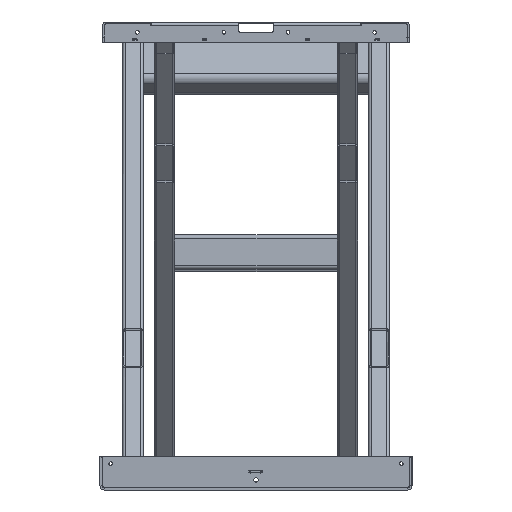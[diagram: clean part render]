
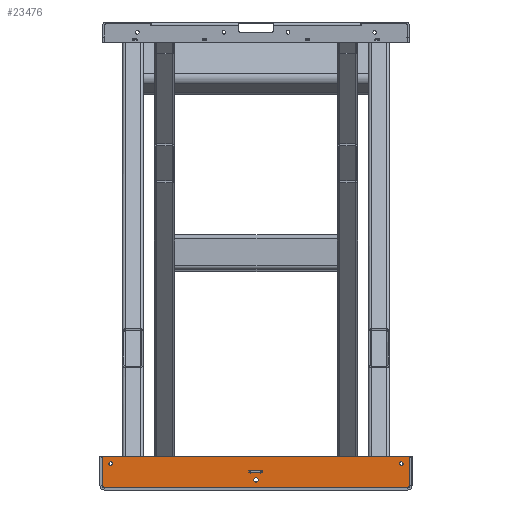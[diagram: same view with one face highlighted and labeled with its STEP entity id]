
A CAD part, left-side view. The second image highlights one B-rep face of the part: STEP entity #23476.
In plain terms, the highlighted planar face has unit normal (-1, 0, 0) as drawn and (0, 0, -1) by its records, which use the part's own axes.
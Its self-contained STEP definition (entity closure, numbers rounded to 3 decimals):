
#858=FACE_BOUND('',#4044,.T.);
#859=FACE_BOUND('',#4045,.T.);
#860=FACE_BOUND('',#4046,.T.);
#861=FACE_BOUND('',#4047,.T.);
#1443=PLANE('',#25908);
#2570=FACE_OUTER_BOUND('',#4043,.T.);
#4043=EDGE_LOOP('',(#21197,#21198,#21199,#21200,#21201,#21202,#21203,#21204));
#4044=EDGE_LOOP('',(#21205,#21206,#21207,#21208,#21209,#21210,#21211,#21212,
#21213,#21214,#21215,#21216,#21217,#21218,#21219,#21220));
#4045=EDGE_LOOP('',(#21221));
#4046=EDGE_LOOP('',(#21222));
#4047=EDGE_LOOP('',(#21223));
#5364=CIRCLE('',#25866,1.);
#5366=CIRCLE('',#25869,1.);
#5368=CIRCLE('',#25872,1.);
#5370=CIRCLE('',#25876,1.);
#5372=CIRCLE('',#25879,1.);
#5374=CIRCLE('',#25882,1.);
#5376=CIRCLE('',#25886,1.);
#5378=CIRCLE('',#25889,1.);
#5380=CIRCLE('',#25892,1.);
#5382=CIRCLE('',#25896,1.);
#5384=CIRCLE('',#25899,1.);
#5386=CIRCLE('',#25902,1.);
#5389=CIRCLE('',#25907,1.);
#5390=CIRCLE('',#25909,1.);
#5391=CIRCLE('',#25910,5.);
#5392=CIRCLE('',#25911,5.);
#5393=CIRCLE('',#25912,6.25);
#7299=LINE('',#41396,#9271);
#7305=LINE('',#41420,#9277);
#7311=LINE('',#41444,#9283);
#7317=LINE('',#41467,#9289);
#7321=LINE('',#41480,#9293);
#7322=LINE('',#41484,#9294);
#7323=LINE('',#41486,#9295);
#7324=LINE('',#41488,#9296);
#7325=LINE('',#41490,#9297);
#7326=LINE('',#41491,#9298);
#9271=VECTOR('',#32477,2.636);
#9277=VECTOR('',#32503,26.636);
#9283=VECTOR('',#32529,2.636);
#9289=VECTOR('',#32555,26.636);
#9293=VECTOR('',#32567,885.);
#9294=VECTOR('',#32570,83.);
#9295=VECTOR('',#32571,8.485);
#9296=VECTOR('',#32572,875.);
#9297=VECTOR('',#32573,8.485);
#9298=VECTOR('',#32574,83.);
#11481=VERTEX_POINT('',#41374);
#11482=VERTEX_POINT('',#41375);
#11485=VERTEX_POINT('',#41383);
#11487=VERTEX_POINT('',#41389);
#11489=VERTEX_POINT('',#41395);
#11491=VERTEX_POINT('',#41401);
#11493=VERTEX_POINT('',#41407);
#11495=VERTEX_POINT('',#41413);
#11497=VERTEX_POINT('',#41419);
#11499=VERTEX_POINT('',#41425);
#11501=VERTEX_POINT('',#41431);
#11503=VERTEX_POINT('',#41437);
#11505=VERTEX_POINT('',#41443);
#11507=VERTEX_POINT('',#41449);
#11509=VERTEX_POINT('',#41455);
#11511=VERTEX_POINT('',#41461);
#11515=VERTEX_POINT('',#41473);
#11516=VERTEX_POINT('',#41475);
#11517=VERTEX_POINT('',#41479);
#11518=VERTEX_POINT('',#41481);
#11519=VERTEX_POINT('',#41483);
#11520=VERTEX_POINT('',#41485);
#11521=VERTEX_POINT('',#41487);
#11522=VERTEX_POINT('',#41489);
#11523=VERTEX_POINT('',#41492);
#11524=VERTEX_POINT('',#41494);
#11525=VERTEX_POINT('',#41496);
#14738=EDGE_CURVE('',#11481,#11482,#5364,.T.);
#14742=EDGE_CURVE('',#11482,#11485,#5366,.T.);
#14745=EDGE_CURVE('',#11485,#11487,#5368,.T.);
#14748=EDGE_CURVE('',#11487,#11489,#7299,.T.);
#14751=EDGE_CURVE('',#11489,#11491,#5370,.T.);
#14754=EDGE_CURVE('',#11491,#11493,#5372,.T.);
#14757=EDGE_CURVE('',#11493,#11495,#5374,.T.);
#14760=EDGE_CURVE('',#11495,#11497,#7305,.T.);
#14763=EDGE_CURVE('',#11497,#11499,#5376,.T.);
#14766=EDGE_CURVE('',#11499,#11501,#5378,.T.);
#14769=EDGE_CURVE('',#11501,#11503,#5380,.T.);
#14772=EDGE_CURVE('',#11503,#11505,#7311,.T.);
#14775=EDGE_CURVE('',#11505,#11507,#5382,.T.);
#14778=EDGE_CURVE('',#11507,#11509,#5384,.T.);
#14781=EDGE_CURVE('',#11509,#11511,#5386,.T.);
#14784=EDGE_CURVE('',#11511,#11481,#7317,.T.);
#14788=EDGE_CURVE('',#11515,#11516,#5389,.T.);
#14790=EDGE_CURVE('',#11515,#11517,#7321,.T.);
#14791=EDGE_CURVE('',#11518,#11517,#5390,.T.);
#14792=EDGE_CURVE('',#11518,#11519,#7322,.T.);
#14793=EDGE_CURVE('',#11520,#11519,#7323,.T.);
#14794=EDGE_CURVE('',#11520,#11521,#7324,.T.);
#14795=EDGE_CURVE('',#11522,#11521,#7325,.T.);
#14796=EDGE_CURVE('',#11522,#11516,#7326,.T.);
#14797=EDGE_CURVE('',#11523,#11523,#5391,.T.);
#14798=EDGE_CURVE('',#11524,#11524,#5392,.T.);
#14799=EDGE_CURVE('',#11525,#11525,#5393,.T.);
#21197=ORIENTED_EDGE('',*,*,#14788,.F.);
#21198=ORIENTED_EDGE('',*,*,#14790,.T.);
#21199=ORIENTED_EDGE('',*,*,#14791,.F.);
#21200=ORIENTED_EDGE('',*,*,#14792,.T.);
#21201=ORIENTED_EDGE('',*,*,#14793,.F.);
#21202=ORIENTED_EDGE('',*,*,#14794,.T.);
#21203=ORIENTED_EDGE('',*,*,#14795,.F.);
#21204=ORIENTED_EDGE('',*,*,#14796,.T.);
#21205=ORIENTED_EDGE('',*,*,#14738,.T.);
#21206=ORIENTED_EDGE('',*,*,#14742,.T.);
#21207=ORIENTED_EDGE('',*,*,#14745,.T.);
#21208=ORIENTED_EDGE('',*,*,#14748,.T.);
#21209=ORIENTED_EDGE('',*,*,#14751,.T.);
#21210=ORIENTED_EDGE('',*,*,#14754,.T.);
#21211=ORIENTED_EDGE('',*,*,#14757,.T.);
#21212=ORIENTED_EDGE('',*,*,#14760,.T.);
#21213=ORIENTED_EDGE('',*,*,#14763,.T.);
#21214=ORIENTED_EDGE('',*,*,#14766,.T.);
#21215=ORIENTED_EDGE('',*,*,#14769,.T.);
#21216=ORIENTED_EDGE('',*,*,#14772,.T.);
#21217=ORIENTED_EDGE('',*,*,#14775,.T.);
#21218=ORIENTED_EDGE('',*,*,#14778,.T.);
#21219=ORIENTED_EDGE('',*,*,#14781,.T.);
#21220=ORIENTED_EDGE('',*,*,#14784,.T.);
#21221=ORIENTED_EDGE('',*,*,#14797,.T.);
#21222=ORIENTED_EDGE('',*,*,#14798,.T.);
#21223=ORIENTED_EDGE('',*,*,#14799,.T.);
#23476=ADVANCED_FACE('',(#2570,#858,#859,#860,#861),#1443,.F.);
#25866=AXIS2_PLACEMENT_3D('',#41376,#32455,#32456);
#25869=AXIS2_PLACEMENT_3D('',#41384,#32463,#32464);
#25872=AXIS2_PLACEMENT_3D('',#41390,#32470,#32471);
#25876=AXIS2_PLACEMENT_3D('',#41402,#32482,#32483);
#25879=AXIS2_PLACEMENT_3D('',#41408,#32489,#32490);
#25882=AXIS2_PLACEMENT_3D('',#41414,#32496,#32497);
#25886=AXIS2_PLACEMENT_3D('',#41426,#32508,#32509);
#25889=AXIS2_PLACEMENT_3D('',#41432,#32515,#32516);
#25892=AXIS2_PLACEMENT_3D('',#41438,#32522,#32523);
#25896=AXIS2_PLACEMENT_3D('',#41450,#32534,#32535);
#25899=AXIS2_PLACEMENT_3D('',#41456,#32541,#32542);
#25902=AXIS2_PLACEMENT_3D('',#41462,#32548,#32549);
#25907=AXIS2_PLACEMENT_3D('',#41476,#32562,#32563);
#25908=AXIS2_PLACEMENT_3D('',#41478,#32565,#32566);
#25909=AXIS2_PLACEMENT_3D('',#41482,#32568,#32569);
#25910=AXIS2_PLACEMENT_3D('',#41493,#32575,#32576);
#25911=AXIS2_PLACEMENT_3D('',#41495,#32577,#32578);
#25912=AXIS2_PLACEMENT_3D('',#41497,#32579,#32580);
#32455=DIRECTION('center_axis',(0.,0.,-1.));
#32456=DIRECTION('ref_axis',(-0.866,-0.5,0.));
#32463=DIRECTION('center_axis',(0.,0.,1.));
#32464=DIRECTION('ref_axis',(-0.866,-0.5,0.));
#32470=DIRECTION('center_axis',(0.,0.,-1.));
#32471=DIRECTION('ref_axis',(1.,0.,0.));
#32477=DIRECTION('',(0.,-1.,0.));
#32482=DIRECTION('center_axis',(0.,0.,-1.));
#32483=DIRECTION('ref_axis',(0.5,-0.866,0.));
#32489=DIRECTION('center_axis',(0.,0.,1.));
#32490=DIRECTION('ref_axis',(0.5,-0.866,0.));
#32496=DIRECTION('center_axis',(0.,0.,-1.));
#32497=DIRECTION('ref_axis',(0.,1.,0.));
#32503=DIRECTION('',(1.,0.,0.));
#32508=DIRECTION('center_axis',(0.,0.,-1.));
#32509=DIRECTION('ref_axis',(0.866,0.5,0.));
#32515=DIRECTION('center_axis',(0.,0.,1.));
#32516=DIRECTION('ref_axis',(0.866,0.5,0.));
#32522=DIRECTION('center_axis',(0.,0.,-1.));
#32523=DIRECTION('ref_axis',(-1.,0.,0.));
#32529=DIRECTION('',(0.,1.,0.));
#32534=DIRECTION('center_axis',(0.,0.,-1.));
#32535=DIRECTION('ref_axis',(-0.5,0.866,0.));
#32541=DIRECTION('center_axis',(0.,0.,1.));
#32542=DIRECTION('ref_axis',(-0.5,0.866,0.));
#32548=DIRECTION('center_axis',(0.,0.,-1.));
#32549=DIRECTION('ref_axis',(0.,-1.,0.));
#32555=DIRECTION('',(-1.,0.,0.));
#32562=DIRECTION('center_axis',(0.,0.,1.));
#32563=DIRECTION('ref_axis',(0.707,-0.707,0.));
#32565=DIRECTION('center_axis',(0.,0.,1.));
#32566=DIRECTION('ref_axis',(1.,0.,0.));
#32567=DIRECTION('',(-1.,0.,0.));
#32568=DIRECTION('center_axis',(0.,0.,1.));
#32569=DIRECTION('ref_axis',(-0.707,-0.707,0.));
#32570=DIRECTION('',(0.,1.,0.));
#32571=DIRECTION('',(-0.707,-0.707,0.));
#32572=DIRECTION('',(1.,0.,0.));
#32573=DIRECTION('',(-0.707,0.707,0.));
#32574=DIRECTION('',(0.,-1.,0.));
#32575=DIRECTION('center_axis',(0.,0.,1.));
#32576=DIRECTION('ref_axis',(1.,0.,0.));
#32577=DIRECTION('center_axis',(0.,0.,1.));
#32578=DIRECTION('ref_axis',(1.,0.,0.));
#32579=DIRECTION('center_axis',(0.,0.,1.));
#32580=DIRECTION('ref_axis',(1.,0.,0.));
#41374=CARTESIAN_POINT('',(-14.318,1.1,0.));
#41375=CARTESIAN_POINT('',(-15.184,1.6,0.));
#41376=CARTESIAN_POINT('Origin',(-14.318,2.1,0.));
#41383=CARTESIAN_POINT('',(-16.55,0.234,0.));
#41384=CARTESIAN_POINT('Origin',(-16.05,1.1,0.));
#41389=CARTESIAN_POINT('',(-16.05,-0.632,0.));
#41390=CARTESIAN_POINT('Origin',(-17.05,-0.632,0.));
#41395=CARTESIAN_POINT('',(-16.05,-3.268,0.));
#41396=CARTESIAN_POINT('',(-16.05,-0.316,0.));
#41401=CARTESIAN_POINT('',(-16.55,-4.134,0.));
#41402=CARTESIAN_POINT('Origin',(-17.05,-3.268,0.));
#41407=CARTESIAN_POINT('',(-15.184,-5.5,0.));
#41408=CARTESIAN_POINT('Origin',(-16.05,-5.,0.));
#41413=CARTESIAN_POINT('',(-14.318,-5.,0.));
#41414=CARTESIAN_POINT('Origin',(-14.318,-6.,0.));
#41419=CARTESIAN_POINT('',(12.318,-5.,0.));
#41420=CARTESIAN_POINT('',(-7.159,-5.,0.));
#41425=CARTESIAN_POINT('',(13.184,-5.5,0.));
#41426=CARTESIAN_POINT('Origin',(12.318,-6.,0.));
#41431=CARTESIAN_POINT('',(14.55,-4.134,0.));
#41432=CARTESIAN_POINT('Origin',(14.05,-5.,0.));
#41437=CARTESIAN_POINT('',(14.05,-3.268,0.));
#41438=CARTESIAN_POINT('Origin',(15.05,-3.268,0.));
#41443=CARTESIAN_POINT('',(14.05,-0.632,0.));
#41444=CARTESIAN_POINT('',(14.05,-1.634,0.));
#41449=CARTESIAN_POINT('',(14.55,0.234,0.));
#41450=CARTESIAN_POINT('Origin',(15.05,-0.632,0.));
#41455=CARTESIAN_POINT('',(13.184,1.6,0.));
#41456=CARTESIAN_POINT('Origin',(14.05,1.1,0.));
#41461=CARTESIAN_POINT('',(12.318,1.1,0.));
#41462=CARTESIAN_POINT('Origin',(12.318,2.1,0.));
#41467=CARTESIAN_POINT('',(6.159,1.1,0.));
#41473=CARTESIAN_POINT('',(442.5,-45.,0.));
#41475=CARTESIAN_POINT('',(443.5,-44.,0.));
#41476=CARTESIAN_POINT('Origin',(442.5,-44.,0.));
#41478=CARTESIAN_POINT('Origin',(0.,0.,
0.));
#41479=CARTESIAN_POINT('',(-442.5,-45.,0.));
#41480=CARTESIAN_POINT('',(443.5,-45.,0.));
#41481=CARTESIAN_POINT('',(-443.5,-44.,0.));
#41482=CARTESIAN_POINT('Origin',(-442.5,-44.,0.));
#41483=CARTESIAN_POINT('',(-443.5,39.,0.));
#41484=CARTESIAN_POINT('',(-443.5,-45.,0.));
#41485=CARTESIAN_POINT('',(-437.5,45.,0.));
#41486=CARTESIAN_POINT('',(-340.875,141.625,0.));
#41487=CARTESIAN_POINT('',(437.5,45.,0.));
#41488=CARTESIAN_POINT('',(-443.5,45.,0.));
#41489=CARTESIAN_POINT('',(443.5,39.,0.));
#41490=CARTESIAN_POINT('',(340.875,141.625,0.));
#41491=CARTESIAN_POINT('',(443.5,45.,0.));
#41492=CARTESIAN_POINT('',(414.5,-25.,0.));
#41493=CARTESIAN_POINT('Origin',(419.5,-25.,0.));
#41494=CARTESIAN_POINT('',(-424.5,-25.,0.));
#41495=CARTESIAN_POINT('Origin',(-419.5,-25.,0.));
#41496=CARTESIAN_POINT('',(-6.25,22.,0.));
#41497=CARTESIAN_POINT('Origin',(0.,22.,0.));
